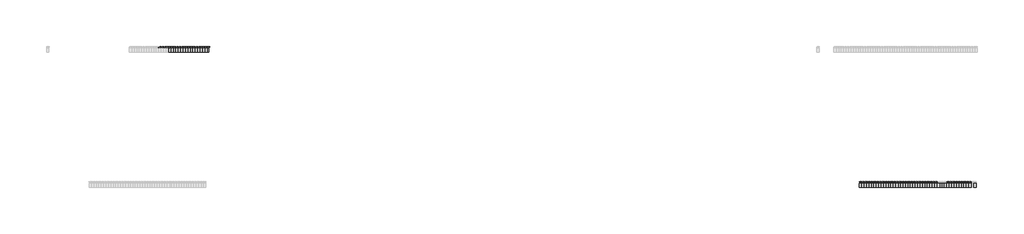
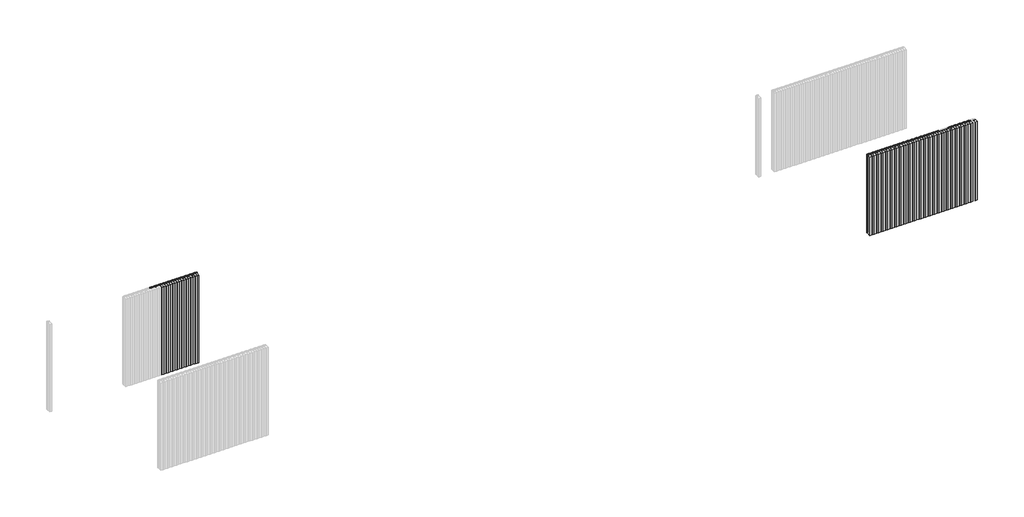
# One storey, part 2 of 3: 64 plates, 63 members.
"""IFC4 building model written with IfcOpenShell, lengths in millimetres."""

from ifc_helpers import new_model, si_unit, origin, place, context, project, spatial, transform, mapped, element, save
from components import rectangular_mullion_776733ef, rectangular_mullion_0795b381, empty_system_panel_empty_5508d8ad, empty_system_panel_empty_eeb1d5fd, empty_system_panel_empty_b4a5b46b, empty_system_panel_empty_e2b6aa40

model = new_model("IFC4")

# Units and contexts
model_context = context("Model", 3, world=origin())
ifc_project = project(units=[si_unit("LENGTHUNIT", "METRE", prefix="MILLI")], contexts=[model_context])

# Site, building, storey
site = spatial("IfcSite", under=ifc_project)
building = spatial("IfcBuilding", under=site)
storey = spatial("IfcBuildingStorey", under=building, Name="REN - Top", Elevation=4000.0)

# Members
placement = place(None, origin())
rectangular_mullion_shape = rectangular_mullion_776733ef(model_context)
element("IfcMember", 1, ObjectType="Rectangular Mullion : Renson_Linarte_LA-E25-01 Zone B", at=placement, inside=storey, context=model_context, shape_type="MappedRepresentation", body=[
    mapped(rectangular_mullion_shape, transform((385735.5749429, -18477.8406315, 0.0), x_axis=(1.0, 0.0, 0.0), y_axis=(0.0, -1.0, 0.0), z_axis=(0.0, 0.0, -1.0))),
])
element("IfcMember", 2, ObjectType="Rectangular Mullion : Renson_Linarte_LA-E25-01 Zone B", at=placement, inside=storey, context=model_context, shape_type="MappedRepresentation", body=[
    mapped(rectangular_mullion_shape, transform((385795.5749429, -18477.8406315, 0.0), x_axis=(1.0, 0.0, 0.0), y_axis=(0.0, -1.0, 0.0), z_axis=(0.0, 0.0, -1.0))),
])
element("IfcMember", 3, ObjectType="Rectangular Mullion : Renson_Linarte_LA-E25-01 Zone B", at=placement, inside=storey, context=model_context, shape_type="MappedRepresentation", body=[
    mapped(rectangular_mullion_shape, transform((385855.5749429, -18477.8406315, 0.0), x_axis=(1.0, 0.0, 0.0), y_axis=(0.0, -1.0, 0.0), z_axis=(0.0, 0.0, -1.0))),
])
element("IfcMember", 4, ObjectType="Rectangular Mullion : Renson_Linarte_LA-E25-01 Zone B", at=placement, inside=storey, context=model_context, shape_type="MappedRepresentation", body=[
    mapped(rectangular_mullion_shape, transform((385915.5749429, -18477.8406315, 0.0), x_axis=(1.0, 0.0, 0.0), y_axis=(0.0, -1.0, 0.0), z_axis=(0.0, 0.0, -1.0))),
])
element("IfcMember", 5, ObjectType="Rectangular Mullion : Renson_Linarte_LA-E25-01 Zone B", at=placement, inside=storey, context=model_context, shape_type="MappedRepresentation", body=[
    mapped(rectangular_mullion_shape, transform((385975.5749429, -18477.8406315, 0.0), x_axis=(1.0, 0.0, 0.0), y_axis=(0.0, -1.0, 0.0), z_axis=(0.0, 0.0, -1.0))),
])
element("IfcMember", 6, ObjectType="Rectangular Mullion : Renson_Linarte_LA-E25-01 Zone B", at=placement, inside=storey, context=model_context, shape_type="MappedRepresentation", body=[
    mapped(rectangular_mullion_shape, transform((386035.5749429, -18477.8406315, 0.0), x_axis=(1.0, 0.0, 0.0), y_axis=(0.0, -1.0, 0.0), z_axis=(0.0, 0.0, -1.0))),
])
element("IfcMember", 7, ObjectType="Rectangular Mullion : Renson_Linarte_LA-E25-01 Zone B", at=placement, inside=storey, context=model_context, shape_type="MappedRepresentation", body=[
    mapped(rectangular_mullion_shape, transform((386095.5749429, -18477.8406315, 0.0), x_axis=(1.0, 0.0, 0.0), y_axis=(0.0, -1.0, 0.0), z_axis=(0.0, 0.0, -1.0))),
])
element("IfcMember", 8, ObjectType="Rectangular Mullion : Renson_Linarte_LA-E25-01 Zone B", at=placement, inside=storey, context=model_context, shape_type="MappedRepresentation", body=[
    mapped(rectangular_mullion_shape, transform((386155.5749429, -18477.8406315, 0.0), x_axis=(1.0, 0.0, 0.0), y_axis=(0.0, -1.0, 0.0), z_axis=(0.0, 0.0, -1.0))),
])
element("IfcMember", 9, ObjectType="Rectangular Mullion : Renson_Linarte_LA-E25-01 Zone B", at=placement, inside=storey, context=model_context, shape_type="MappedRepresentation", body=[
    mapped(rectangular_mullion_shape, transform((386215.5749429, -18477.8406315, 0.0), x_axis=(1.0, 0.0, 0.0), y_axis=(0.0, -1.0, 0.0), z_axis=(0.0, 0.0, -1.0))),
])
element("IfcMember", 10, ObjectType="Rectangular Mullion : Renson_Linarte_LA-E25-01 Zone B", at=placement, inside=storey, context=model_context, shape_type="MappedRepresentation", body=[
    mapped(rectangular_mullion_shape, transform((386275.5749429, -18477.8406315, 0.0), x_axis=(1.0, 0.0, 0.0), y_axis=(0.0, -1.0, 0.0), z_axis=(0.0, 0.0, -1.0))),
])
element("IfcMember", 11, ObjectType="Rectangular Mullion : Renson_Linarte_LA-E25-01 Zone B", at=placement, inside=storey, context=model_context, shape_type="MappedRepresentation", body=[
    mapped(rectangular_mullion_shape, transform((386335.5749429, -18477.8406315, 0.0), x_axis=(1.0, 0.0, 0.0), y_axis=(0.0, -1.0, 0.0), z_axis=(0.0, 0.0, -1.0))),
])
element("IfcMember", 12, ObjectType="Rectangular Mullion : Renson_Linarte_LA-E25-01 Zone B", at=placement, inside=storey, context=model_context, shape_type="MappedRepresentation", body=[
    mapped(rectangular_mullion_shape, transform((386395.5749429, -18477.8406315, 0.0), x_axis=(1.0, 0.0, 0.0), y_axis=(0.0, -1.0, 0.0), z_axis=(0.0, 0.0, -1.0))),
])
element("IfcMember", 13, ObjectType="Rectangular Mullion : Renson_Linarte_LA-E25-01 Zone B", at=placement, inside=storey, context=model_context, shape_type="MappedRepresentation", body=[
    mapped(rectangular_mullion_shape, transform((386455.5749429, -18477.8406315, 0.0), x_axis=(1.0, 0.0, 0.0), y_axis=(0.0, -1.0, 0.0), z_axis=(0.0, 0.0, -1.0))),
])
element("IfcMember", 14, ObjectType="Rectangular Mullion : Renson_Linarte_LA-E25-01 Zone B", at=placement, inside=storey, context=model_context, shape_type="MappedRepresentation", body=[
    mapped(rectangular_mullion_shape, transform((386515.5749429, -18477.8406315, 0.0), x_axis=(1.0, 0.0, 0.0), y_axis=(0.0, -1.0, 0.0), z_axis=(0.0, 0.0, -1.0))),
])
element("IfcMember", 15, ObjectType="Rectangular Mullion : Renson_Linarte_LA-E25-01 Zone B", at=placement, inside=storey, context=model_context, shape_type="MappedRepresentation", body=[
    mapped(rectangular_mullion_shape, transform((386575.5749429, -18477.8406315, 0.0), x_axis=(1.0, 0.0, 0.0), y_axis=(0.0, -1.0, 0.0), z_axis=(0.0, 0.0, -1.0))),
])
element("IfcMember", 16, ObjectType="Rectangular Mullion : Renson_Linarte_LA-E25-01 Zone B", at=placement, inside=storey, context=model_context, shape_type="MappedRepresentation", body=[
    mapped(rectangular_mullion_shape, transform((386635.5749429, -18477.8406315, 0.0), x_axis=(1.0, 0.0, 0.0), y_axis=(0.0, -1.0, 0.0), z_axis=(0.0, 0.0, -1.0))),
])
element("IfcMember", 17, ObjectType="Rectangular Mullion : Renson_Linarte_LA-E25-01 Zone B", at=placement, inside=storey, context=model_context, shape_type="MappedRepresentation", body=[
    mapped(rectangular_mullion_shape, transform((386695.5749429, -18477.8406315, 0.0), x_axis=(1.0, 0.0, 0.0), y_axis=(0.0, -1.0, 0.0), z_axis=(0.0, 0.0, -1.0))),
])
element("IfcMember", 18, ObjectType="Rectangular Mullion : Renson_Linarte_LA-E25-01 Zone B", at=placement, inside=storey, context=model_context, shape_type="MappedRepresentation", body=[
    mapped(rectangular_mullion_shape, transform((386755.5749429, -18477.8406315, 0.0), x_axis=(1.0, 0.0, 0.0), y_axis=(0.0, -1.0, 0.0), z_axis=(0.0, 0.0, -1.0))),
])
element("IfcMember", 19, ObjectType="Rectangular Mullion : Renson_Linarte_LA-E25-01 Zone B", at=placement, inside=storey, context=model_context, shape_type="MappedRepresentation", body=[
    mapped(rectangular_mullion_shape, transform((386815.5749429, -18477.8406315, 0.0), x_axis=(1.0, 0.0, 0.0), y_axis=(0.0, -1.0, 0.0), z_axis=(0.0, 0.0, -1.0))),
])
element("IfcMember", 20, ObjectType="Rectangular Mullion : Renson_Linarte_LA-E25-01 Zone B", at=placement, inside=storey, context=model_context, shape_type="MappedRepresentation", body=[
    mapped(rectangular_mullion_shape, transform((386875.5749429, -18477.8406315, 0.0), x_axis=(1.0, 0.0, 0.0), y_axis=(0.0, -1.0, 0.0), z_axis=(0.0, 0.0, -1.0))),
])
element("IfcMember", 21, ObjectType="Rectangular Mullion : Renson_Linarte_LA-E25-01 Zone B", at=placement, inside=storey, context=model_context, shape_type="MappedRepresentation", body=[
    mapped(rectangular_mullion_shape, transform((386935.5749429, -18477.8406315, 0.0), x_axis=(1.0, 0.0, 0.0), y_axis=(0.0, -1.0, 0.0), z_axis=(0.0, 0.0, -1.0))),
])
rectangular_mullion_2_shape = rectangular_mullion_0795b381(model_context)
element("IfcMember", 22, ObjectType="Rectangular Mullion : Renson_Linarte_LA-E25-01 Zone B", at=placement, inside=storey, context=model_context, shape_type="MappedRepresentation", body=[
    mapped(rectangular_mullion_2_shape, transform((405789.0900204, -21816.7045876, 0.0), x_axis=(-1.0, 0.0, 0.0), y_axis=(0.0, 1.0, 0.0), z_axis=(0.0, 0.0, -1.0))),
])
element("IfcMember", 23, ObjectType="Rectangular Mullion : Renson_Linarte_LA-E25-01 Zone B", at=placement, inside=storey, context=model_context, shape_type="MappedRepresentation", body=[
    mapped(rectangular_mullion_2_shape, transform((405729.0900204, -21816.7045876, 0.0), x_axis=(-1.0, 0.0, 0.0), y_axis=(0.0, 1.0, 0.0), z_axis=(0.0, 0.0, -1.0))),
])
element("IfcMember", 24, ObjectType="Rectangular Mullion : Renson_Linarte_LA-E25-01 Zone B", at=placement, inside=storey, context=model_context, shape_type="MappedRepresentation", body=[
    mapped(rectangular_mullion_2_shape, transform((405669.0900204, -21816.7045876, 0.0), x_axis=(-1.0, 0.0, 0.0), y_axis=(0.0, 1.0, 0.0), z_axis=(0.0, 0.0, -1.0))),
])
element("IfcMember", 25, ObjectType="Rectangular Mullion : Renson_Linarte_LA-E25-01 Zone B", at=placement, inside=storey, context=model_context, shape_type="MappedRepresentation", body=[
    mapped(rectangular_mullion_2_shape, transform((405609.0900204, -21816.7045876, 0.0), x_axis=(-1.0, 0.0, 0.0), y_axis=(0.0, 1.0, 0.0), z_axis=(0.0, 0.0, -1.0))),
])
element("IfcMember", 26, ObjectType="Rectangular Mullion : Renson_Linarte_LA-E25-01 Zone B", at=placement, inside=storey, context=model_context, shape_type="MappedRepresentation", body=[
    mapped(rectangular_mullion_2_shape, transform((405549.0900204, -21816.7045876, 0.0), x_axis=(-1.0, 0.0, 0.0), y_axis=(0.0, 1.0, 0.0), z_axis=(0.0, 0.0, -1.0))),
])
element("IfcMember", 27, ObjectType="Rectangular Mullion : Renson_Linarte_LA-E25-01 Zone B", at=placement, inside=storey, context=model_context, shape_type="MappedRepresentation", body=[
    mapped(rectangular_mullion_2_shape, transform((405489.0900204, -21816.7045876, 0.0), x_axis=(-1.0, 0.0, 0.0), y_axis=(0.0, 1.0, 0.0), z_axis=(0.0, 0.0, -1.0))),
])
element("IfcMember", 28, ObjectType="Rectangular Mullion : Renson_Linarte_LA-E25-01 Zone B", at=placement, inside=storey, context=model_context, shape_type="MappedRepresentation", body=[
    mapped(rectangular_mullion_2_shape, transform((405429.0900204, -21816.7045876, 0.0), x_axis=(-1.0, 0.0, 0.0), y_axis=(0.0, 1.0, 0.0), z_axis=(0.0, 0.0, -1.0))),
])
element("IfcMember", 29, ObjectType="Rectangular Mullion : Renson_Linarte_LA-E25-01 Zone B", at=placement, inside=storey, context=model_context, shape_type="MappedRepresentation", body=[
    mapped(rectangular_mullion_2_shape, transform((405369.0900204, -21816.7045876, 0.0), x_axis=(-1.0, 0.0, 0.0), y_axis=(0.0, 1.0, 0.0), z_axis=(0.0, 0.0, -1.0))),
])
element("IfcMember", 30, ObjectType="Rectangular Mullion : Renson_Linarte_LA-E25-01 Zone B", at=placement, inside=storey, context=model_context, shape_type="MappedRepresentation", body=[
    mapped(rectangular_mullion_2_shape, transform((405309.0900204, -21816.7045876, 0.0), x_axis=(-1.0, 0.0, 0.0), y_axis=(0.0, 1.0, 0.0), z_axis=(0.0, 0.0, -1.0))),
])
element("IfcMember", 31, ObjectType="Rectangular Mullion : Renson_Linarte_LA-E25-01 Zone B", at=placement, inside=storey, context=model_context, shape_type="MappedRepresentation", body=[
    mapped(rectangular_mullion_2_shape, transform((405249.0900204, -21816.7045876, 0.0), x_axis=(-1.0, 0.0, 0.0), y_axis=(0.0, 1.0, 0.0), z_axis=(0.0, 0.0, -1.0))),
])
element("IfcMember", 32, ObjectType="Rectangular Mullion : Renson_Linarte_LA-E25-01 Zone B", at=placement, inside=storey, context=model_context, shape_type="MappedRepresentation", body=[
    mapped(rectangular_mullion_2_shape, transform((404949.0900204, -21816.7045876, 0.0), x_axis=(-1.0, 0.0, 0.0), y_axis=(0.0, 1.0, 0.0), z_axis=(0.0, 0.0, -1.0))),
])
element("IfcMember", 33, ObjectType="Rectangular Mullion : Renson_Linarte_LA-E25-01 Zone B", at=placement, inside=storey, context=model_context, shape_type="MappedRepresentation", body=[
    mapped(rectangular_mullion_2_shape, transform((404889.0900204, -21816.7045876, 0.0), x_axis=(-1.0, 0.0, 0.0), y_axis=(0.0, 1.0, 0.0), z_axis=(0.0, 0.0, -1.0))),
])
element("IfcMember", 34, ObjectType="Rectangular Mullion : Renson_Linarte_LA-E25-01 Zone B", at=placement, inside=storey, context=model_context, shape_type="MappedRepresentation", body=[
    mapped(rectangular_mullion_2_shape, transform((404829.0900204, -21816.7045876, 0.0), x_axis=(-1.0, 0.0, 0.0), y_axis=(0.0, 1.0, 0.0), z_axis=(0.0, 0.0, -1.0))),
])
element("IfcMember", 35, ObjectType="Rectangular Mullion : Renson_Linarte_LA-E25-01 Zone B", at=placement, inside=storey, context=model_context, shape_type="MappedRepresentation", body=[
    mapped(rectangular_mullion_2_shape, transform((404769.0900204, -21816.7045876, 0.0), x_axis=(-1.0, 0.0, 0.0), y_axis=(0.0, 1.0, 0.0), z_axis=(0.0, 0.0, -1.0))),
])
element("IfcMember", 36, ObjectType="Rectangular Mullion : Renson_Linarte_LA-E25-01 Zone B", at=placement, inside=storey, context=model_context, shape_type="MappedRepresentation", body=[
    mapped(rectangular_mullion_2_shape, transform((404709.0900204, -21816.7045876, 0.0), x_axis=(-1.0, 0.0, 0.0), y_axis=(0.0, 1.0, 0.0), z_axis=(0.0, 0.0, -1.0))),
])
element("IfcMember", 37, ObjectType="Rectangular Mullion : Renson_Linarte_LA-E25-01 Zone B", at=placement, inside=storey, context=model_context, shape_type="MappedRepresentation", body=[
    mapped(rectangular_mullion_2_shape, transform((404649.0900204, -21816.7045876, 0.0), x_axis=(-1.0, 0.0, 0.0), y_axis=(0.0, 1.0, 0.0), z_axis=(0.0, 0.0, -1.0))),
])
element("IfcMember", 38, ObjectType="Rectangular Mullion : Renson_Linarte_LA-E25-01 Zone B", at=placement, inside=storey, context=model_context, shape_type="MappedRepresentation", body=[
    mapped(rectangular_mullion_2_shape, transform((404589.0900204, -21816.7045876, 0.0), x_axis=(-1.0, 0.0, 0.0), y_axis=(0.0, 1.0, 0.0), z_axis=(0.0, 0.0, -1.0))),
])
element("IfcMember", 39, ObjectType="Rectangular Mullion : Renson_Linarte_LA-E25-01 Zone B", at=placement, inside=storey, context=model_context, shape_type="MappedRepresentation", body=[
    mapped(rectangular_mullion_2_shape, transform((404529.0900204, -21816.7045876, 0.0), x_axis=(-1.0, 0.0, 0.0), y_axis=(0.0, 1.0, 0.0), z_axis=(0.0, 0.0, -1.0))),
])
element("IfcMember", 40, ObjectType="Rectangular Mullion : Renson_Linarte_LA-E25-01 Zone B", at=placement, inside=storey, context=model_context, shape_type="MappedRepresentation", body=[
    mapped(rectangular_mullion_2_shape, transform((404469.0900204, -21816.7045876, 0.0), x_axis=(-1.0, 0.0, 0.0), y_axis=(0.0, 1.0, 0.0), z_axis=(0.0, 0.0, -1.0))),
])
element("IfcMember", 41, ObjectType="Rectangular Mullion : Renson_Linarte_LA-E25-01 Zone B", at=placement, inside=storey, context=model_context, shape_type="MappedRepresentation", body=[
    mapped(rectangular_mullion_2_shape, transform((404409.0900204, -21816.7045876, 0.0), x_axis=(-1.0, 0.0, 0.0), y_axis=(0.0, 1.0, 0.0), z_axis=(0.0, 0.0, -1.0))),
])
element("IfcMember", 42, ObjectType="Rectangular Mullion : Renson_Linarte_LA-E25-01 Zone B", at=placement, inside=storey, context=model_context, shape_type="MappedRepresentation", body=[
    mapped(rectangular_mullion_2_shape, transform((404349.0900204, -21816.7045876, 0.0), x_axis=(-1.0, 0.0, 0.0), y_axis=(0.0, 1.0, 0.0), z_axis=(0.0, 0.0, -1.0))),
])
element("IfcMember", 43, ObjectType="Rectangular Mullion : Renson_Linarte_LA-E25-01 Zone B", at=placement, inside=storey, context=model_context, shape_type="MappedRepresentation", body=[
    mapped(rectangular_mullion_2_shape, transform((404289.0900204, -21816.7045876, 0.0), x_axis=(-1.0, 0.0, 0.0), y_axis=(0.0, 1.0, 0.0), z_axis=(0.0, 0.0, -1.0))),
])
element("IfcMember", 44, ObjectType="Rectangular Mullion : Renson_Linarte_LA-E25-01 Zone B", at=placement, inside=storey, context=model_context, shape_type="MappedRepresentation", body=[
    mapped(rectangular_mullion_2_shape, transform((404229.0900204, -21816.7045876, 0.0), x_axis=(-1.0, 0.0, 0.0), y_axis=(0.0, 1.0, 0.0), z_axis=(0.0, 0.0, -1.0))),
])
element("IfcMember", 45, ObjectType="Rectangular Mullion : Renson_Linarte_LA-E25-01 Zone B", at=placement, inside=storey, context=model_context, shape_type="MappedRepresentation", body=[
    mapped(rectangular_mullion_2_shape, transform((404169.0900204, -21816.7045876, 0.0), x_axis=(-1.0, 0.0, 0.0), y_axis=(0.0, 1.0, 0.0), z_axis=(0.0, 0.0, -1.0))),
])
element("IfcMember", 46, ObjectType="Rectangular Mullion : Renson_Linarte_LA-E25-01 Zone B", at=placement, inside=storey, context=model_context, shape_type="MappedRepresentation", body=[
    mapped(rectangular_mullion_2_shape, transform((404109.0900204, -21816.7045876, 0.0), x_axis=(-1.0, 0.0, 0.0), y_axis=(0.0, 1.0, 0.0), z_axis=(0.0, 0.0, -1.0))),
])
element("IfcMember", 47, ObjectType="Rectangular Mullion : Renson_Linarte_LA-E25-01 Zone B", at=placement, inside=storey, context=model_context, shape_type="MappedRepresentation", body=[
    mapped(rectangular_mullion_2_shape, transform((404049.0900204, -21816.7045876, 0.0), x_axis=(-1.0, 0.0, 0.0), y_axis=(0.0, 1.0, 0.0), z_axis=(0.0, 0.0, -1.0))),
])
element("IfcMember", 48, ObjectType="Rectangular Mullion : Renson_Linarte_LA-E25-01 Zone B", at=placement, inside=storey, context=model_context, shape_type="MappedRepresentation", body=[
    mapped(rectangular_mullion_2_shape, transform((403989.0900204, -21816.7045876, 0.0), x_axis=(-1.0, 0.0, 0.0), y_axis=(0.0, 1.0, 0.0), z_axis=(0.0, 0.0, -1.0))),
])
element("IfcMember", 49, ObjectType="Rectangular Mullion : Renson_Linarte_LA-E25-01 Zone B", at=placement, inside=storey, context=model_context, shape_type="MappedRepresentation", body=[
    mapped(rectangular_mullion_2_shape, transform((403929.0900204, -21816.7045876, 0.0), x_axis=(-1.0, 0.0, 0.0), y_axis=(0.0, 1.0, 0.0), z_axis=(0.0, 0.0, -1.0))),
])
element("IfcMember", 50, ObjectType="Rectangular Mullion : Renson_Linarte_LA-E25-01 Zone B", at=placement, inside=storey, context=model_context, shape_type="MappedRepresentation", body=[
    mapped(rectangular_mullion_2_shape, transform((403869.0900204, -21816.7045876, 0.0), x_axis=(-1.0, 0.0, 0.0), y_axis=(0.0, 1.0, 0.0), z_axis=(0.0, 0.0, -1.0))),
])
element("IfcMember", 51, ObjectType="Rectangular Mullion : Renson_Linarte_LA-E25-01 Zone B", at=placement, inside=storey, context=model_context, shape_type="MappedRepresentation", body=[
    mapped(rectangular_mullion_2_shape, transform((403809.0900204, -21816.7045876, 0.0), x_axis=(-1.0, 0.0, 0.0), y_axis=(0.0, 1.0, 0.0), z_axis=(0.0, 0.0, -1.0))),
])
element("IfcMember", 52, ObjectType="Rectangular Mullion : Renson_Linarte_LA-E25-01 Zone B", at=placement, inside=storey, context=model_context, shape_type="MappedRepresentation", body=[
    mapped(rectangular_mullion_2_shape, transform((403749.0900204, -21816.7045876, 0.0), x_axis=(-1.0, 0.0, 0.0), y_axis=(0.0, 1.0, 0.0), z_axis=(0.0, 0.0, -1.0))),
])
element("IfcMember", 53, ObjectType="Rectangular Mullion : Renson_Linarte_LA-E25-01 Zone B", at=placement, inside=storey, context=model_context, shape_type="MappedRepresentation", body=[
    mapped(rectangular_mullion_2_shape, transform((403689.0900204, -21816.7045876, 0.0), x_axis=(-1.0, 0.0, 0.0), y_axis=(0.0, 1.0, 0.0), z_axis=(0.0, 0.0, -1.0))),
])
element("IfcMember", 54, ObjectType="Rectangular Mullion : Renson_Linarte_LA-E25-01 Zone B", at=placement, inside=storey, context=model_context, shape_type="MappedRepresentation", body=[
    mapped(rectangular_mullion_2_shape, transform((403629.0900204, -21816.7045876, 0.0), x_axis=(-1.0, 0.0, 0.0), y_axis=(0.0, 1.0, 0.0), z_axis=(0.0, 0.0, -1.0))),
])
element("IfcMember", 55, ObjectType="Rectangular Mullion : Renson_Linarte_LA-E25-01 Zone B", at=placement, inside=storey, context=model_context, shape_type="MappedRepresentation", body=[
    mapped(rectangular_mullion_2_shape, transform((403569.0900204, -21816.7045876, 0.0), x_axis=(-1.0, 0.0, 0.0), y_axis=(0.0, 1.0, 0.0), z_axis=(0.0, 0.0, -1.0))),
])
element("IfcMember", 56, ObjectType="Rectangular Mullion : Renson_Linarte_LA-E25-01 Zone B", at=placement, inside=storey, context=model_context, shape_type="MappedRepresentation", body=[
    mapped(rectangular_mullion_2_shape, transform((403509.0900204, -21816.7045876, 0.0), x_axis=(-1.0, 0.0, 0.0), y_axis=(0.0, 1.0, 0.0), z_axis=(0.0, 0.0, -1.0))),
])
element("IfcMember", 57, ObjectType="Rectangular Mullion : Renson_Linarte_LA-E25-01 Zone B", at=placement, inside=storey, context=model_context, shape_type="MappedRepresentation", body=[
    mapped(rectangular_mullion_2_shape, transform((403449.0900204, -21816.7045876, 0.0), x_axis=(-1.0, 0.0, 0.0), y_axis=(0.0, 1.0, 0.0), z_axis=(0.0, 0.0, -1.0))),
])
element("IfcMember", 58, ObjectType="Rectangular Mullion : Renson_Linarte_LA-E25-01 Zone B", at=placement, inside=storey, context=model_context, shape_type="MappedRepresentation", body=[
    mapped(rectangular_mullion_2_shape, transform((403389.0900204, -21816.7045876, 0.0), x_axis=(-1.0, 0.0, 0.0), y_axis=(0.0, 1.0, 0.0), z_axis=(0.0, 0.0, -1.0))),
])
element("IfcMember", 59, ObjectType="Rectangular Mullion : Renson_Linarte_LA-E25-01 Zone B", at=placement, inside=storey, context=model_context, shape_type="MappedRepresentation", body=[
    mapped(rectangular_mullion_2_shape, transform((403329.0900204, -21816.7045876, 0.0), x_axis=(-1.0, 0.0, 0.0), y_axis=(0.0, 1.0, 0.0), z_axis=(0.0, 0.0, -1.0))),
])
element("IfcMember", 60, ObjectType="Rectangular Mullion : Renson_Linarte_LA-E25-01 Zone B", at=placement, inside=storey, context=model_context, shape_type="MappedRepresentation", body=[
    mapped(rectangular_mullion_2_shape, transform((403269.0900204, -21816.7045876, 0.0), x_axis=(-1.0, 0.0, 0.0), y_axis=(0.0, 1.0, 0.0), z_axis=(0.0, 0.0, -1.0))),
])
element("IfcMember", 61, ObjectType="Rectangular Mullion : Renson_Linarte_LA-E25-01 Zone B", at=placement, inside=storey, context=model_context, shape_type="MappedRepresentation", body=[
    mapped(rectangular_mullion_2_shape, transform((403209.0900204, -21816.7045876, 0.0), x_axis=(-1.0, 0.0, 0.0), y_axis=(0.0, 1.0, 0.0), z_axis=(0.0, 0.0, -1.0))),
])
element("IfcMember", 62, ObjectType="Rectangular Mullion : Renson_Linarte_LA-E25-01 Zone B", at=placement, inside=storey, context=model_context, shape_type="MappedRepresentation", body=[
    mapped(rectangular_mullion_2_shape, transform((403149.0900204, -21816.7045876, 0.0), x_axis=(-1.0, 0.0, 0.0), y_axis=(0.0, 1.0, 0.0), z_axis=(0.0, 0.0, -1.0))),
])
element("IfcMember", 63, ObjectType="Rectangular Mullion : Renson_Linarte_LA-E25-01 Zone B", at=placement, inside=storey, context=model_context, shape_type="MappedRepresentation", body=[
    mapped(rectangular_mullion_2_shape, transform((403089.0900204, -21816.7045876, 0.0), x_axis=(-1.0, 0.0, 0.0), y_axis=(0.0, 1.0, 0.0), z_axis=(0.0, 0.0, -1.0))),
])

# Plates
empty_system_panel_empty_shape = empty_system_panel_empty_5508d8ad(model_context)
element("IfcPlate", 64, ObjectType="Empty System Panel : Empty", at=placement, inside=storey, context=model_context, shape_type="MappedRepresentation", body=[
    mapped(empty_system_panel_empty_shape, transform((386005.5749429, -18477.8406315, 0.0), x_axis=(1.0, 0.0, 0.0), y_axis=(0.0, 1.0, 0.0), z_axis=(0.0, 0.0, 1.0))),
])
element("IfcPlate", 65, ObjectType="Empty System Panel : Empty", at=placement, inside=storey, context=model_context, shape_type="MappedRepresentation", body=[
    mapped(empty_system_panel_empty_shape, transform((386065.5749429, -18477.8406315, 0.0), x_axis=(1.0, 0.0, 0.0), y_axis=(0.0, 1.0, 0.0), z_axis=(0.0, 0.0, 1.0))),
])
element("IfcPlate", 66, ObjectType="Empty System Panel : Empty", at=placement, inside=storey, context=model_context, shape_type="MappedRepresentation", body=[
    mapped(empty_system_panel_empty_shape, transform((386125.5749429, -18477.8406315, 0.0), x_axis=(1.0, 0.0, 0.0), y_axis=(0.0, 1.0, 0.0), z_axis=(0.0, 0.0, 1.0))),
])
element("IfcPlate", 67, ObjectType="Empty System Panel : Empty", at=placement, inside=storey, context=model_context, shape_type="MappedRepresentation", body=[
    mapped(empty_system_panel_empty_shape, transform((386185.5749429, -18477.8406315, 0.0), x_axis=(1.0, 0.0, 0.0), y_axis=(0.0, 1.0, 0.0), z_axis=(0.0, 0.0, 1.0))),
])
element("IfcPlate", 68, ObjectType="Empty System Panel : Empty", at=placement, inside=storey, context=model_context, shape_type="MappedRepresentation", body=[
    mapped(empty_system_panel_empty_shape, transform((386245.5749429, -18477.8406315, 0.0), x_axis=(1.0, 0.0, 0.0), y_axis=(0.0, 1.0, 0.0), z_axis=(0.0, 0.0, 1.0))),
])
element("IfcPlate", 69, ObjectType="Empty System Panel : Empty", at=placement, inside=storey, context=model_context, shape_type="MappedRepresentation", body=[
    mapped(empty_system_panel_empty_shape, transform((386305.5749429, -18477.8406315, 0.0), x_axis=(1.0, 0.0, 0.0), y_axis=(0.0, 1.0, 0.0), z_axis=(0.0, 0.0, 1.0))),
])
element("IfcPlate", 70, ObjectType="Empty System Panel : Empty", at=placement, inside=storey, context=model_context, shape_type="MappedRepresentation", body=[
    mapped(empty_system_panel_empty_shape, transform((386365.5749429, -18477.8406315, 0.0), x_axis=(1.0, 0.0, 0.0), y_axis=(0.0, 1.0, 0.0), z_axis=(0.0, 0.0, 1.0))),
])
element("IfcPlate", 71, ObjectType="Empty System Panel : Empty", at=placement, inside=storey, context=model_context, shape_type="MappedRepresentation", body=[
    mapped(empty_system_panel_empty_shape, transform((386425.5749429, -18477.8406315, 0.0), x_axis=(1.0, 0.0, 0.0), y_axis=(0.0, 1.0, 0.0), z_axis=(0.0, 0.0, 1.0))),
])
element("IfcPlate", 72, ObjectType="Empty System Panel : Empty", at=placement, inside=storey, context=model_context, shape_type="MappedRepresentation", body=[
    mapped(empty_system_panel_empty_shape, transform((386485.5749429, -18477.8406315, 0.0), x_axis=(1.0, 0.0, 0.0), y_axis=(0.0, 1.0, 0.0), z_axis=(0.0, 0.0, 1.0))),
])
element("IfcPlate", 73, ObjectType="Empty System Panel : Empty", at=placement, inside=storey, context=model_context, shape_type="MappedRepresentation", body=[
    mapped(empty_system_panel_empty_shape, transform((386545.5749429, -18477.8406315, 0.0), x_axis=(1.0, 0.0, 0.0), y_axis=(0.0, 1.0, 0.0), z_axis=(0.0, 0.0, 1.0))),
])
element("IfcPlate", 74, ObjectType="Empty System Panel : Empty", at=placement, inside=storey, context=model_context, shape_type="MappedRepresentation", body=[
    mapped(empty_system_panel_empty_shape, transform((386605.5749429, -18477.8406315, 0.0), x_axis=(1.0, 0.0, 0.0), y_axis=(0.0, 1.0, 0.0), z_axis=(0.0, 0.0, 1.0))),
])
element("IfcPlate", 75, ObjectType="Empty System Panel : Empty", at=placement, inside=storey, context=model_context, shape_type="MappedRepresentation", body=[
    mapped(empty_system_panel_empty_shape, transform((386665.5749429, -18477.8406315, 0.0), x_axis=(1.0, 0.0, 0.0), y_axis=(0.0, 1.0, 0.0), z_axis=(0.0, 0.0, 1.0))),
])
element("IfcPlate", 76, ObjectType="Empty System Panel : Empty", at=placement, inside=storey, context=model_context, shape_type="MappedRepresentation", body=[
    mapped(empty_system_panel_empty_shape, transform((386725.5749429, -18477.8406315, 0.0), x_axis=(1.0, 0.0, 0.0), y_axis=(0.0, 1.0, 0.0), z_axis=(0.0, 0.0, 1.0))),
])
element("IfcPlate", 77, ObjectType="Empty System Panel : Empty", at=placement, inside=storey, context=model_context, shape_type="MappedRepresentation", body=[
    mapped(empty_system_panel_empty_shape, transform((386785.5749429, -18477.8406315, 0.0), x_axis=(1.0, 0.0, 0.0), y_axis=(0.0, 1.0, 0.0), z_axis=(0.0, 0.0, 1.0))),
])
element("IfcPlate", 78, ObjectType="Empty System Panel : Empty", at=placement, inside=storey, context=model_context, shape_type="MappedRepresentation", body=[
    mapped(empty_system_panel_empty_shape, transform((386845.5749429, -18477.8406315, 0.0), x_axis=(1.0, 0.0, 0.0), y_axis=(0.0, 1.0, 0.0), z_axis=(0.0, 0.0, 1.0))),
])
element("IfcPlate", 79, ObjectType="Empty System Panel : Empty", at=placement, inside=storey, context=model_context, shape_type="MappedRepresentation", body=[
    mapped(empty_system_panel_empty_shape, transform((386905.5749429, -18477.8406315, 0.0), x_axis=(1.0, 0.0, 0.0), y_axis=(0.0, 1.0, 0.0), z_axis=(0.0, 0.0, 1.0))),
])
empty_system_panel_empty_2_shape = empty_system_panel_empty_eeb1d5fd(model_context)
element("IfcPlate", 80, ObjectType="Empty System Panel : Empty", at=placement, inside=storey, context=model_context, shape_type="MappedRepresentation", body=[
    mapped(empty_system_panel_empty_2_shape, transform((386955.5749427, -18477.8406315, 0.0), x_axis=(1.0, 0.0, 0.0), y_axis=(0.0, 1.0, 0.0), z_axis=(0.0, 0.0, 1.0))),
])
empty_system_panel_empty_3_shape = empty_system_panel_empty_b4a5b46b(model_context)
element("IfcPlate", 81, ObjectType="Empty System Panel : Empty", at=placement, inside=storey, context=model_context, shape_type="MappedRepresentation", body=[
    mapped(empty_system_panel_empty_3_shape, transform((405759.0900204, -21816.7045876, 0.0), x_axis=(-1.0, 0.0, 0.0), y_axis=(0.0, -1.0, 0.0), z_axis=(0.0, 0.0, 1.0))),
])
element("IfcPlate", 82, ObjectType="Empty System Panel : Empty", at=placement, inside=storey, context=model_context, shape_type="MappedRepresentation", body=[
    mapped(empty_system_panel_empty_3_shape, transform((405699.0900204, -21816.7045876, 0.0), x_axis=(-1.0, 0.0, 0.0), y_axis=(0.0, -1.0, 0.0), z_axis=(0.0, 0.0, 1.0))),
])
element("IfcPlate", 83, ObjectType="Empty System Panel : Empty", at=placement, inside=storey, context=model_context, shape_type="MappedRepresentation", body=[
    mapped(empty_system_panel_empty_3_shape, transform((405639.0900204, -21816.7045876, 0.0), x_axis=(-1.0, 0.0, 0.0), y_axis=(0.0, -1.0, 0.0), z_axis=(0.0, 0.0, 1.0))),
])
element("IfcPlate", 84, ObjectType="Empty System Panel : Empty", at=placement, inside=storey, context=model_context, shape_type="MappedRepresentation", body=[
    mapped(empty_system_panel_empty_3_shape, transform((405579.0900204, -21816.7045876, 0.0), x_axis=(-1.0, 0.0, 0.0), y_axis=(0.0, -1.0, 0.0), z_axis=(0.0, 0.0, 1.0))),
])
element("IfcPlate", 85, ObjectType="Empty System Panel : Empty", at=placement, inside=storey, context=model_context, shape_type="MappedRepresentation", body=[
    mapped(empty_system_panel_empty_3_shape, transform((405519.0900204, -21816.7045876, 0.0), x_axis=(-1.0, 0.0, 0.0), y_axis=(0.0, -1.0, 0.0), z_axis=(0.0, 0.0, 1.0))),
])
element("IfcPlate", 86, ObjectType="Empty System Panel : Empty", at=placement, inside=storey, context=model_context, shape_type="MappedRepresentation", body=[
    mapped(empty_system_panel_empty_3_shape, transform((405459.0900204, -21816.7045876, 0.0), x_axis=(-1.0, 0.0, 0.0), y_axis=(0.0, -1.0, 0.0), z_axis=(0.0, 0.0, 1.0))),
])
element("IfcPlate", 87, ObjectType="Empty System Panel : Empty", at=placement, inside=storey, context=model_context, shape_type="MappedRepresentation", body=[
    mapped(empty_system_panel_empty_3_shape, transform((405399.0900204, -21816.7045876, 0.0), x_axis=(-1.0, 0.0, 0.0), y_axis=(0.0, -1.0, 0.0), z_axis=(0.0, 0.0, 1.0))),
])
element("IfcPlate", 88, ObjectType="Empty System Panel : Empty", at=placement, inside=storey, context=model_context, shape_type="MappedRepresentation", body=[
    mapped(empty_system_panel_empty_3_shape, transform((405339.0900204, -21816.7045876, 0.0), x_axis=(-1.0, 0.0, 0.0), y_axis=(0.0, -1.0, 0.0), z_axis=(0.0, 0.0, 1.0))),
])
element("IfcPlate", 89, ObjectType="Empty System Panel : Empty", at=placement, inside=storey, context=model_context, shape_type="MappedRepresentation", body=[
    mapped(empty_system_panel_empty_3_shape, transform((405279.0900204, -21816.7045876, 0.0), x_axis=(-1.0, 0.0, 0.0), y_axis=(0.0, -1.0, 0.0), z_axis=(0.0, 0.0, 1.0))),
])
element("IfcPlate", 90, ObjectType="Empty System Panel : Empty", at=placement, inside=storey, context=model_context, shape_type="MappedRepresentation", body=[
    mapped(empty_system_panel_empty_3_shape, transform((405219.0900204, -21816.7045876, 0.0), x_axis=(-1.0, 0.0, 0.0), y_axis=(0.0, -1.0, 0.0), z_axis=(0.0, 0.0, 1.0))),
])
element("IfcPlate", 91, ObjectType="Empty System Panel : Empty", at=placement, inside=storey, context=model_context, shape_type="MappedRepresentation", body=[
    mapped(empty_system_panel_empty_3_shape, transform((405159.0900204, -21816.7045876, 0.0), x_axis=(-1.0, 0.0, 0.0), y_axis=(0.0, -1.0, 0.0), z_axis=(0.0, 0.0, 1.0))),
])
element("IfcPlate", 92, ObjectType="Empty System Panel : Empty", at=placement, inside=storey, context=model_context, shape_type="MappedRepresentation", body=[
    mapped(empty_system_panel_empty_3_shape, transform((405099.0900204, -21816.7045876, 0.0), x_axis=(-1.0, 0.0, 0.0), y_axis=(0.0, -1.0, 0.0), z_axis=(0.0, 0.0, 1.0))),
])
element("IfcPlate", 93, ObjectType="Empty System Panel : Empty", at=placement, inside=storey, context=model_context, shape_type="MappedRepresentation", body=[
    mapped(empty_system_panel_empty_3_shape, transform((405039.0900204, -21816.7045876, 0.0), x_axis=(-1.0, 0.0, 0.0), y_axis=(0.0, -1.0, 0.0), z_axis=(0.0, 0.0, 1.0))),
])
element("IfcPlate", 94, ObjectType="Empty System Panel : Empty", at=placement, inside=storey, context=model_context, shape_type="MappedRepresentation", body=[
    mapped(empty_system_panel_empty_3_shape, transform((404979.0900204, -21816.7045876, 0.0), x_axis=(-1.0, 0.0, 0.0), y_axis=(0.0, -1.0, 0.0), z_axis=(0.0, 0.0, 1.0))),
])
element("IfcPlate", 95, ObjectType="Empty System Panel : Empty", at=placement, inside=storey, context=model_context, shape_type="MappedRepresentation", body=[
    mapped(empty_system_panel_empty_3_shape, transform((404919.0900204, -21816.7045876, 0.0), x_axis=(-1.0, 0.0, 0.0), y_axis=(0.0, -1.0, 0.0), z_axis=(0.0, 0.0, 1.0))),
])
element("IfcPlate", 96, ObjectType="Empty System Panel : Empty", at=placement, inside=storey, context=model_context, shape_type="MappedRepresentation", body=[
    mapped(empty_system_panel_empty_3_shape, transform((404859.0900204, -21816.7045876, 0.0), x_axis=(-1.0, 0.0, 0.0), y_axis=(0.0, -1.0, 0.0), z_axis=(0.0, 0.0, 1.0))),
])
element("IfcPlate", 97, ObjectType="Empty System Panel : Empty", at=placement, inside=storey, context=model_context, shape_type="MappedRepresentation", body=[
    mapped(empty_system_panel_empty_3_shape, transform((404799.0900204, -21816.7045876, 0.0), x_axis=(-1.0, 0.0, 0.0), y_axis=(0.0, -1.0, 0.0), z_axis=(0.0, 0.0, 1.0))),
])
element("IfcPlate", 98, ObjectType="Empty System Panel : Empty", at=placement, inside=storey, context=model_context, shape_type="MappedRepresentation", body=[
    mapped(empty_system_panel_empty_3_shape, transform((404739.0900204, -21816.7045876, 0.0), x_axis=(-1.0, 0.0, 0.0), y_axis=(0.0, -1.0, 0.0), z_axis=(0.0, 0.0, 1.0))),
])
element("IfcPlate", 99, ObjectType="Empty System Panel : Empty", at=placement, inside=storey, context=model_context, shape_type="MappedRepresentation", body=[
    mapped(empty_system_panel_empty_3_shape, transform((404679.0900204, -21816.7045876, 0.0), x_axis=(-1.0, 0.0, 0.0), y_axis=(0.0, -1.0, 0.0), z_axis=(0.0, 0.0, 1.0))),
])
element("IfcPlate", 100, ObjectType="Empty System Panel : Empty", at=placement, inside=storey, context=model_context, shape_type="MappedRepresentation", body=[
    mapped(empty_system_panel_empty_3_shape, transform((404619.0900204, -21816.7045876, 0.0), x_axis=(-1.0, 0.0, 0.0), y_axis=(0.0, -1.0, 0.0), z_axis=(0.0, 0.0, 1.0))),
])
element("IfcPlate", 101, ObjectType="Empty System Panel : Empty", at=placement, inside=storey, context=model_context, shape_type="MappedRepresentation", body=[
    mapped(empty_system_panel_empty_3_shape, transform((404559.0900204, -21816.7045876, 0.0), x_axis=(-1.0, 0.0, 0.0), y_axis=(0.0, -1.0, 0.0), z_axis=(0.0, 0.0, 1.0))),
])
element("IfcPlate", 102, ObjectType="Empty System Panel : Empty", at=placement, inside=storey, context=model_context, shape_type="MappedRepresentation", body=[
    mapped(empty_system_panel_empty_3_shape, transform((404499.0900204, -21816.7045876, 0.0), x_axis=(-1.0, 0.0, 0.0), y_axis=(0.0, -1.0, 0.0), z_axis=(0.0, 0.0, 1.0))),
])
element("IfcPlate", 103, ObjectType="Empty System Panel : Empty", at=placement, inside=storey, context=model_context, shape_type="MappedRepresentation", body=[
    mapped(empty_system_panel_empty_3_shape, transform((404439.0900204, -21816.7045876, 0.0), x_axis=(-1.0, 0.0, 0.0), y_axis=(0.0, -1.0, 0.0), z_axis=(0.0, 0.0, 1.0))),
])
element("IfcPlate", 104, ObjectType="Empty System Panel : Empty", at=placement, inside=storey, context=model_context, shape_type="MappedRepresentation", body=[
    mapped(empty_system_panel_empty_3_shape, transform((404379.0900204, -21816.7045876, 0.0), x_axis=(-1.0, 0.0, 0.0), y_axis=(0.0, -1.0, 0.0), z_axis=(0.0, 0.0, 1.0))),
])
element("IfcPlate", 105, ObjectType="Empty System Panel : Empty", at=placement, inside=storey, context=model_context, shape_type="MappedRepresentation", body=[
    mapped(empty_system_panel_empty_3_shape, transform((404319.0900204, -21816.7045876, 0.0), x_axis=(-1.0, 0.0, 0.0), y_axis=(0.0, -1.0, 0.0), z_axis=(0.0, 0.0, 1.0))),
])
element("IfcPlate", 106, ObjectType="Empty System Panel : Empty", at=placement, inside=storey, context=model_context, shape_type="MappedRepresentation", body=[
    mapped(empty_system_panel_empty_3_shape, transform((404259.0900204, -21816.7045876, 0.0), x_axis=(-1.0, 0.0, 0.0), y_axis=(0.0, -1.0, 0.0), z_axis=(0.0, 0.0, 1.0))),
])
element("IfcPlate", 107, ObjectType="Empty System Panel : Empty", at=placement, inside=storey, context=model_context, shape_type="MappedRepresentation", body=[
    mapped(empty_system_panel_empty_3_shape, transform((404199.0900204, -21816.7045876, 0.0), x_axis=(-1.0, 0.0, 0.0), y_axis=(0.0, -1.0, 0.0), z_axis=(0.0, 0.0, 1.0))),
])
element("IfcPlate", 108, ObjectType="Empty System Panel : Empty", at=placement, inside=storey, context=model_context, shape_type="MappedRepresentation", body=[
    mapped(empty_system_panel_empty_3_shape, transform((404139.0900204, -21816.7045876, 0.0), x_axis=(-1.0, 0.0, 0.0), y_axis=(0.0, -1.0, 0.0), z_axis=(0.0, 0.0, 1.0))),
])
element("IfcPlate", 109, ObjectType="Empty System Panel : Empty", at=placement, inside=storey, context=model_context, shape_type="MappedRepresentation", body=[
    mapped(empty_system_panel_empty_3_shape, transform((404079.0900204, -21816.7045876, 0.0), x_axis=(-1.0, 0.0, 0.0), y_axis=(0.0, -1.0, 0.0), z_axis=(0.0, 0.0, 1.0))),
])
element("IfcPlate", 110, ObjectType="Empty System Panel : Empty", at=placement, inside=storey, context=model_context, shape_type="MappedRepresentation", body=[
    mapped(empty_system_panel_empty_3_shape, transform((404019.0900204, -21816.7045876, 0.0), x_axis=(-1.0, 0.0, 0.0), y_axis=(0.0, -1.0, 0.0), z_axis=(0.0, 0.0, 1.0))),
])
element("IfcPlate", 111, ObjectType="Empty System Panel : Empty", at=placement, inside=storey, context=model_context, shape_type="MappedRepresentation", body=[
    mapped(empty_system_panel_empty_3_shape, transform((403959.0900204, -21816.7045876, 0.0), x_axis=(-1.0, 0.0, 0.0), y_axis=(0.0, -1.0, 0.0), z_axis=(0.0, 0.0, 1.0))),
])
element("IfcPlate", 112, ObjectType="Empty System Panel : Empty", at=placement, inside=storey, context=model_context, shape_type="MappedRepresentation", body=[
    mapped(empty_system_panel_empty_3_shape, transform((403899.0900204, -21816.7045876, 0.0), x_axis=(-1.0, 0.0, 0.0), y_axis=(0.0, -1.0, 0.0), z_axis=(0.0, 0.0, 1.0))),
])
element("IfcPlate", 113, ObjectType="Empty System Panel : Empty", at=placement, inside=storey, context=model_context, shape_type="MappedRepresentation", body=[
    mapped(empty_system_panel_empty_3_shape, transform((403839.0900204, -21816.7045876, 0.0), x_axis=(-1.0, 0.0, 0.0), y_axis=(0.0, -1.0, 0.0), z_axis=(0.0, 0.0, 1.0))),
])
element("IfcPlate", 114, ObjectType="Empty System Panel : Empty", at=placement, inside=storey, context=model_context, shape_type="MappedRepresentation", body=[
    mapped(empty_system_panel_empty_3_shape, transform((403779.0900204, -21816.7045876, 0.0), x_axis=(-1.0, 0.0, 0.0), y_axis=(0.0, -1.0, 0.0), z_axis=(0.0, 0.0, 1.0))),
])
element("IfcPlate", 115, ObjectType="Empty System Panel : Empty", at=placement, inside=storey, context=model_context, shape_type="MappedRepresentation", body=[
    mapped(empty_system_panel_empty_3_shape, transform((403719.0900204, -21816.7045876, 0.0), x_axis=(-1.0, 0.0, 0.0), y_axis=(0.0, -1.0, 0.0), z_axis=(0.0, 0.0, 1.0))),
])
element("IfcPlate", 116, ObjectType="Empty System Panel : Empty", at=placement, inside=storey, context=model_context, shape_type="MappedRepresentation", body=[
    mapped(empty_system_panel_empty_3_shape, transform((403659.0900204, -21816.7045876, 0.0), x_axis=(-1.0, 0.0, 0.0), y_axis=(0.0, -1.0, 0.0), z_axis=(0.0, 0.0, 1.0))),
])
element("IfcPlate", 117, ObjectType="Empty System Panel : Empty", at=placement, inside=storey, context=model_context, shape_type="MappedRepresentation", body=[
    mapped(empty_system_panel_empty_3_shape, transform((403599.0900204, -21816.7045876, 0.0), x_axis=(-1.0, 0.0, 0.0), y_axis=(0.0, -1.0, 0.0), z_axis=(0.0, 0.0, 1.0))),
])
element("IfcPlate", 118, ObjectType="Empty System Panel : Empty", at=placement, inside=storey, context=model_context, shape_type="MappedRepresentation", body=[
    mapped(empty_system_panel_empty_3_shape, transform((403539.0900204, -21816.7045876, 0.0), x_axis=(-1.0, 0.0, 0.0), y_axis=(0.0, -1.0, 0.0), z_axis=(0.0, 0.0, 1.0))),
])
element("IfcPlate", 119, ObjectType="Empty System Panel : Empty", at=placement, inside=storey, context=model_context, shape_type="MappedRepresentation", body=[
    mapped(empty_system_panel_empty_3_shape, transform((403479.0900204, -21816.7045876, 0.0), x_axis=(-1.0, 0.0, 0.0), y_axis=(0.0, -1.0, 0.0), z_axis=(0.0, 0.0, 1.0))),
])
element("IfcPlate", 120, ObjectType="Empty System Panel : Empty", at=placement, inside=storey, context=model_context, shape_type="MappedRepresentation", body=[
    mapped(empty_system_panel_empty_3_shape, transform((403419.0900204, -21816.7045876, 0.0), x_axis=(-1.0, 0.0, 0.0), y_axis=(0.0, -1.0, 0.0), z_axis=(0.0, 0.0, 1.0))),
])
element("IfcPlate", 121, ObjectType="Empty System Panel : Empty", at=placement, inside=storey, context=model_context, shape_type="MappedRepresentation", body=[
    mapped(empty_system_panel_empty_3_shape, transform((403359.0900204, -21816.7045876, 0.0), x_axis=(-1.0, 0.0, 0.0), y_axis=(0.0, -1.0, 0.0), z_axis=(0.0, 0.0, 1.0))),
])
element("IfcPlate", 122, ObjectType="Empty System Panel : Empty", at=placement, inside=storey, context=model_context, shape_type="MappedRepresentation", body=[
    mapped(empty_system_panel_empty_3_shape, transform((403299.0900204, -21816.7045876, 0.0), x_axis=(-1.0, 0.0, 0.0), y_axis=(0.0, -1.0, 0.0), z_axis=(0.0, 0.0, 1.0))),
])
element("IfcPlate", 123, ObjectType="Empty System Panel : Empty", at=placement, inside=storey, context=model_context, shape_type="MappedRepresentation", body=[
    mapped(empty_system_panel_empty_3_shape, transform((403239.0900204, -21816.7045876, 0.0), x_axis=(-1.0, 0.0, 0.0), y_axis=(0.0, -1.0, 0.0), z_axis=(0.0, 0.0, 1.0))),
])
element("IfcPlate", 124, ObjectType="Empty System Panel : Empty", at=placement, inside=storey, context=model_context, shape_type="MappedRepresentation", body=[
    mapped(empty_system_panel_empty_3_shape, transform((403179.0900204, -21816.7045876, 0.0), x_axis=(-1.0, 0.0, 0.0), y_axis=(0.0, -1.0, 0.0), z_axis=(0.0, 0.0, 1.0))),
])
element("IfcPlate", 125, ObjectType="Empty System Panel : Empty", at=placement, inside=storey, context=model_context, shape_type="MappedRepresentation", body=[
    mapped(empty_system_panel_empty_3_shape, transform((403119.0900204, -21816.7045876, 0.0), x_axis=(-1.0, 0.0, 0.0), y_axis=(0.0, -1.0, 0.0), z_axis=(0.0, 0.0, 1.0))),
])
element("IfcPlate", 126, ObjectType="Empty System Panel : Empty", at=placement, inside=storey, context=model_context, shape_type="MappedRepresentation", body=[
    mapped(empty_system_panel_empty_3_shape, transform((403059.0900204, -21816.7045876, 0.0), x_axis=(-1.0, 0.0, 0.0), y_axis=(0.0, -1.0, 0.0), z_axis=(0.0, 0.0, 1.0))),
])
empty_system_panel_empty_4_shape = empty_system_panel_empty_e2b6aa40(model_context)
element("IfcPlate", 127, ObjectType="Empty System Panel : Empty", at=placement, inside=storey, context=model_context, shape_type="MappedRepresentation", body=[
    mapped(empty_system_panel_empty_4_shape, transform((405879.0900206, -21816.7045876, 0.0), x_axis=(-1.0, 0.0, 0.0), y_axis=(0.0, -1.0, 0.0), z_axis=(0.0, 0.0, 1.0))),
])

save(model, "model.ifc")
